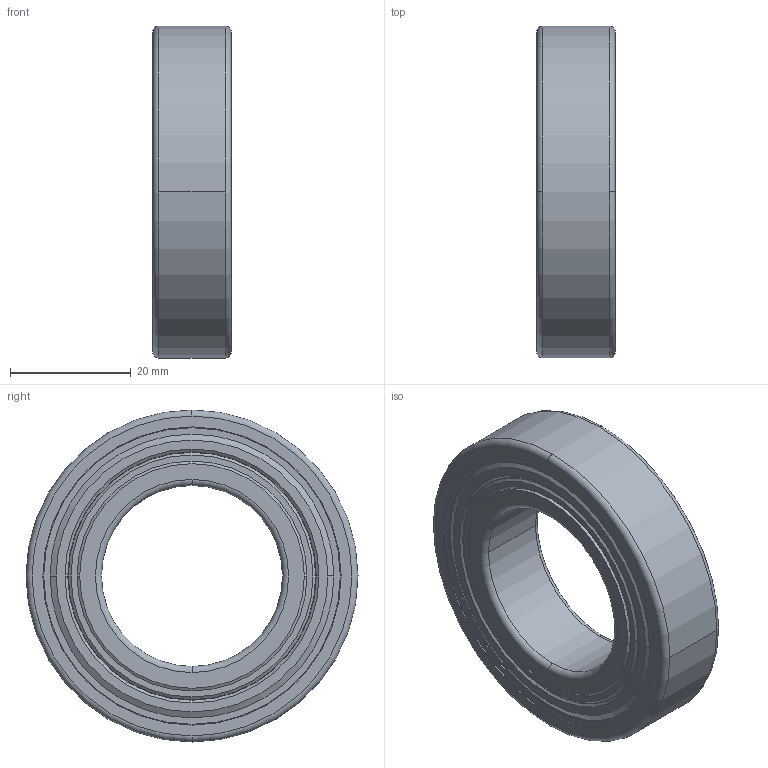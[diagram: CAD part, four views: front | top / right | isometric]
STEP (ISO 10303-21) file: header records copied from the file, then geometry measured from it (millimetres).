
FILE_DESCRIPTION(('STEP AP214'),'1');
FILE_NAME('snr_6006zz_0.stp','2023-10-31T05:29:47',('TraceParts'),('TraceParts S.A.'),'Spatial InterOp 3D',' ',' ');
FILE_SCHEMA(('AUTOMOTIVE_DESIGN { 1 0 10303 214 1 1 1 1 }'));
Length unit declared in the file: millimetre
Products named in the file (1): snr_6006zz_0_1
Bounding box: 13 x 55 x 55 mm (x, y, z)
Volume: 18813 mm3; surface area: 17879.8 mm2
Topology: 5 solids, 5 shells, 118 faces, 264 edges, 172 vertices
Faces by surface type: torus 36, cone 32, plane 26, cylinder 24
Entity records: 3451 total; most frequent: DIRECTION 718, CARTESIAN_POINT 559, ORIENTED_EDGE 528, AXIS2_PLACEMENT_3D 331, EDGE_CURVE 264, CIRCLE 208, VERTEX_POINT 172, EDGE_LOOP 144
